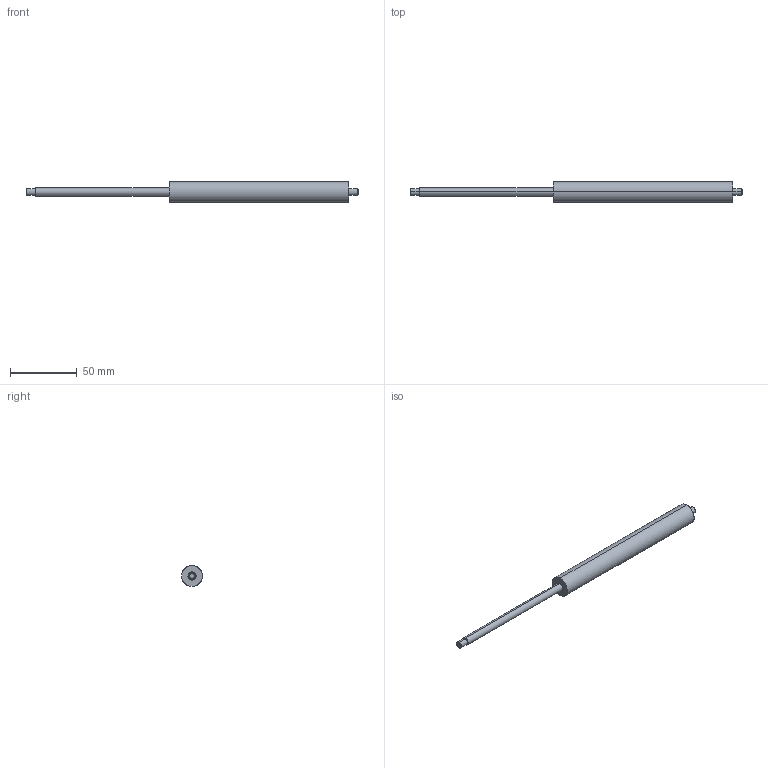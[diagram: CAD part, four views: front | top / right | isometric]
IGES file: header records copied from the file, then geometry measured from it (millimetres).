
Start section: SolidWorks IGES file using analytic representation for surfaces
Bounding box: 248 x 15.6 x 15.6 mm (x, y, z)
Surface area: 9046.5 mm2 (no closed solid volume)
Topology: 0 solids, 0 shells, 17 faces, 304 edges, 304 vertices
Faces by surface type: revolution 12, bspline 5
